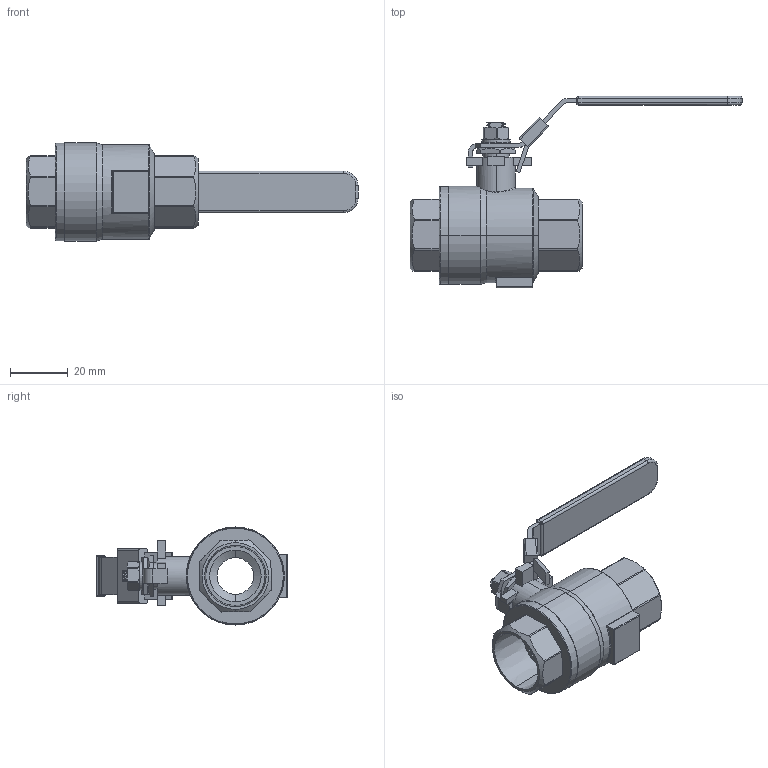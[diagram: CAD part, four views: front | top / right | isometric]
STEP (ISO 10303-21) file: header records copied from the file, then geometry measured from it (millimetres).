
FILE_DESCRIPTION (( 'STEP AP203' ), '1' );
FILE_NAME ('sgf-4.STEP', '2019-09-20T16:06:42', ( '' ), ( '' ), 'SwSTEP 2.0', 'SolidWorks 2017', '' );
FILE_SCHEMA (( 'CONFIG_CONTROL_DESIGN' ));
Length unit declared in the file: inch
Products named in the file (2): sgf-4
Bounding box: 115.19 x 66.42 x 34.04 mm (x, y, z)
Volume: 34704.1 mm3; surface area: 17125.1 mm2
Topology: 3 solids, 5 shells, 341 faces, 894 edges, 566 vertices
Faces by surface type: plane 132, cylinder 94, bspline 56, cone 35, torus 24
Entity records: 27306 total; most frequent: CARTESIAN_POINT 19440, ORIENTED_EDGE 1780, DIRECTION 1439, EDGE_CURVE 890, VERTEX_POINT 566, AXIS2_PLACEMENT_3D 530, VECTOR 379, LINE 379
